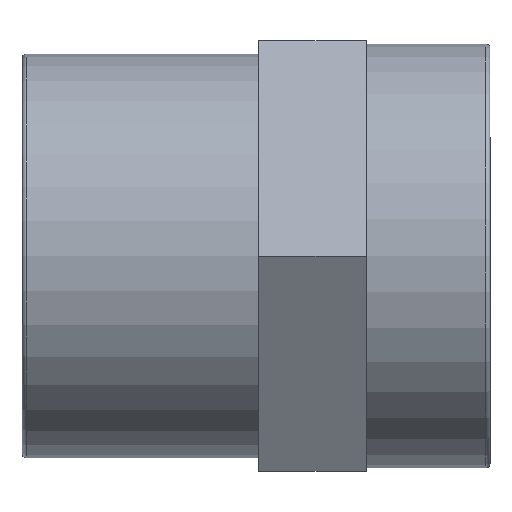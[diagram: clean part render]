
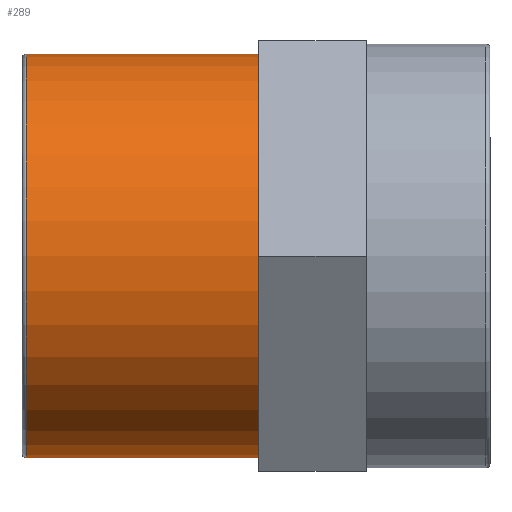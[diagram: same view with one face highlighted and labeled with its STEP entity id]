
A CAD part, top view. The second image highlights one B-rep face of the part: STEP entity #289.
In plain terms, the highlighted cylindrical face has radius 37.5 mm (diameter 75 mm), a full revolution.
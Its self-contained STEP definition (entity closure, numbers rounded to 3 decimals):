
#54=CYLINDRICAL_SURFACE('',#323,37.5);
#77=FACE_BOUND('',#123,.T.);
#92=FACE_OUTER_BOUND('',#122,.T.);
#122=EDGE_LOOP('',(#230));
#123=EDGE_LOOP('',(#231));
#150=CIRCLE('',#322,37.5);
#151=CIRCLE('',#324,37.5);
#164=VERTEX_POINT('',#458);
#165=VERTEX_POINT('',#461);
#190=EDGE_CURVE('',#164,#164,#150,.T.);
#191=EDGE_CURVE('',#165,#165,#151,.T.);
#230=ORIENTED_EDGE('',*,*,#191,.T.);
#231=ORIENTED_EDGE('',*,*,#190,.F.);
#289=ADVANCED_FACE('',(#92,#77),#54,.T.);
#322=AXIS2_PLACEMENT_3D('',#459,#378,#379);
#323=AXIS2_PLACEMENT_3D('',#460,#380,#381);
#324=AXIS2_PLACEMENT_3D('',#462,#382,#383);
#378=DIRECTION('center_axis',(-1.,0.,0.));
#379=DIRECTION('ref_axis',(0.,1.,0.));
#380=DIRECTION('center_axis',(-1.,0.,0.));
#381=DIRECTION('ref_axis',(0.,-1.,0.));
#382=DIRECTION('center_axis',(-1.,0.,0.));
#383=DIRECTION('ref_axis',(0.,0.,1.));
#458=CARTESIAN_POINT('',(-42.75,-37.5,0.));
#459=CARTESIAN_POINT('Origin',(-42.75,0.,0.));
#460=CARTESIAN_POINT('Origin',(-21.5,0.,0.));
#461=CARTESIAN_POINT('',(0.5,-37.5,0.));
#462=CARTESIAN_POINT('Origin',(0.5,0.,0.));
